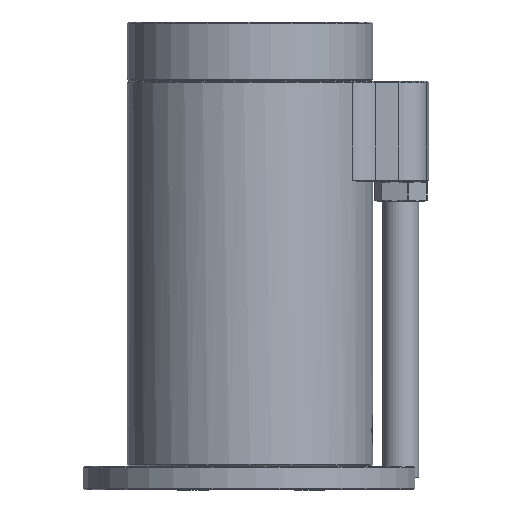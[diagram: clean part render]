
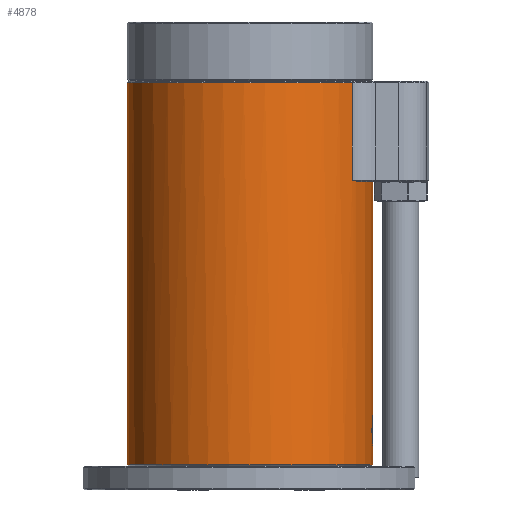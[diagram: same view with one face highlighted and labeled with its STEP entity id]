
A CAD part, left-side view. The second image highlights one B-rep face of the part: STEP entity #4878.
In plain terms, the highlighted cylindrical face has radius 44 mm (diameter 88 mm), a full revolution.
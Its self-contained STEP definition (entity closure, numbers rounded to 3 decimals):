
#30=B_SPLINE_CURVE_WITH_KNOTS('',3,(#7658,#7659,#7660,#7661),
 .UNSPECIFIED.,.F.,.F.,(4,4),(1.656,1.963),
 .UNSPECIFIED.);
#31=B_SPLINE_CURVE_WITH_KNOTS('',3,(#7674,#7675,#7676,#7677),
 .UNSPECIFIED.,.F.,.F.,(4,4),(1.963,2.269),
 .UNSPECIFIED.);
#33=B_SPLINE_CURVE_WITH_KNOTS('',3,(#7720,#7721,#7722,#7723,#7724,#7725,
#7726,#7727,#7728,#7729,#7730,#7731,#7732,#7733,#7734,#7735,#7736,#7737,
#7738,#7739,#7740,#7741,#7742,#7743,#7744,#7745,#7746,#7747,#7748,#7749,
#7750),.UNSPECIFIED.,.T.,.F.,(4,1,1,1,1,1,1,1,1,1,1,1,1,1,1,1,1,1,1,1,1,
1,1,1,1,1,1,1,4),(-5.808,-5.63,-5.57,
-5.452,-5.333,-5.274,-5.156,
-5.096,-4.948,-4.859,-4.77,
-4.741,-4.622,-4.519,-4.385,
-4.227,-4.168,-4.069,-3.99,
-3.911,-3.714,-3.595,-3.437,
-3.2,-3.141,-2.963,-2.844,
-2.726,-2.489),.UNSPECIFIED.);
#184=LINE('',#7599,#507);
#190=LINE('',#7622,#513);
#507=VECTOR('',#6101,10.);
#513=VECTOR('',#6125,10.);
#804=CYLINDRICAL_SURFACE('',#5346,44.);
#888=FACE_BOUND('',#1452,.T.);
#889=FACE_BOUND('',#1453,.T.);
#1109=FACE_OUTER_BOUND('',#1451,.T.);
#1451=EDGE_LOOP('',(#3466));
#1452=EDGE_LOOP('',(#3467,#3468,#3469,#3470,#3471,#3472));
#1453=EDGE_LOOP('',(#3473));
#1821=CIRCLE('',#5241,44.);
#1851=CIRCLE('',#5326,44.);
#1855=CIRCLE('',#5342,44.);
#2065=VERTEX_POINT('',#7368);
#2071=VERTEX_POINT('',#7380);
#2142=VERTEX_POINT('',#7595);
#2143=VERTEX_POINT('',#7597);
#2150=VERTEX_POINT('',#7619);
#2151=VERTEX_POINT('',#7621);
#2160=VERTEX_POINT('',#7679);
#2164=VERTEX_POINT('',#7719);
#2523=EDGE_CURVE('',#2065,#2071,#1821,.T.);
#2621=EDGE_CURVE('',#2143,#2142,#184,.T.);
#2632=EDGE_CURVE('',#2150,#2151,#190,.T.);
#2643=EDGE_CURVE('',#2151,#2143,#1851,.T.);
#2651=EDGE_CURVE('',#2065,#2150,#30,.T.);
#2658=EDGE_CURVE('',#2142,#2071,#31,.T.);
#2659=EDGE_CURVE('',#2160,#2160,#1855,.T.);
#2663=EDGE_CURVE('',#2164,#2164,#33,.T.);
#3466=ORIENTED_EDGE('',*,*,#2659,.F.);
#3467=ORIENTED_EDGE('',*,*,#2643,.F.);
#3468=ORIENTED_EDGE('',*,*,#2632,.F.);
#3469=ORIENTED_EDGE('',*,*,#2651,.F.);
#3470=ORIENTED_EDGE('',*,*,#2523,.T.);
#3471=ORIENTED_EDGE('',*,*,#2658,.F.);
#3472=ORIENTED_EDGE('',*,*,#2621,.F.);
#3473=ORIENTED_EDGE('',*,*,#2663,.F.);
#4878=ADVANCED_FACE('',(#1109,#888,#889),#804,.T.);
#5241=AXIS2_PLACEMENT_3D('',#7382,#5888,#5889);
#5326=AXIS2_PLACEMENT_3D('',#7642,#6148,#6149);
#5342=AXIS2_PLACEMENT_3D('',#7680,#6190,#6191);
#5346=AXIS2_PLACEMENT_3D('',#7718,#6198,#6199);
#5888=DIRECTION('center_axis',(0.,0.,
-1.));
#5889=DIRECTION('ref_axis',(1.,0.,0.));
#6101=DIRECTION('',(0.,0.,-1.));
#6125=DIRECTION('',(0.,0.,1.));
#6148=DIRECTION('center_axis',(0.,0.,
1.));
#6149=DIRECTION('ref_axis',(1.,0.,0.));
#6190=DIRECTION('center_axis',(0.,0.,
-1.));
#6191=DIRECTION('ref_axis',(-1.,0.,0.));
#6198=DIRECTION('center_axis',(0.,0.,
-1.));
#6199=DIRECTION('ref_axis',(1.,0.,0.));
#7368=CARTESIAN_POINT('',(21.99,-38.111,110.5));
#7380=CARTESIAN_POINT('',(-21.99,-38.111,110.5));
#7382=CARTESIAN_POINT('Origin',(0.,0.,
110.5));
#7595=CARTESIAN_POINT('',(-24.444,-36.585,111.));
#7597=CARTESIAN_POINT('',(-24.444,-36.585,146.));
#7599=CARTESIAN_POINT('',(-24.444,-36.585,59.5));
#7619=CARTESIAN_POINT('',(24.444,-36.585,111.));
#7621=CARTESIAN_POINT('',(24.444,-36.585,146.));
#7622=CARTESIAN_POINT('',(24.444,-36.585,59.5));
#7642=CARTESIAN_POINT('Origin',(0.,0.,
146.));
#7658=CARTESIAN_POINT('Ctrl Pts',(21.99,-38.111,110.5));
#7659=CARTESIAN_POINT('Ctrl Pts',(22.783,-37.653,110.809));
#7660=CARTESIAN_POINT('Ctrl Pts',(23.595,-37.153,111.));
#7661=CARTESIAN_POINT('Ctrl Pts',(24.444,-36.585,111.));
#7674=CARTESIAN_POINT('Ctrl Pts',(-24.444,-36.585,111.));
#7675=CARTESIAN_POINT('Ctrl Pts',(-23.595,-37.153,111.));
#7676=CARTESIAN_POINT('Ctrl Pts',(-22.783,-37.653,110.809));
#7677=CARTESIAN_POINT('Ctrl Pts',(-21.99,-38.111,110.5));
#7679=CARTESIAN_POINT('',(44.,0.,9.));
#7680=CARTESIAN_POINT('Origin',(0.,0.,
9.));
#7718=CARTESIAN_POINT('Origin',(0.,0.,
59.5));
#7719=CARTESIAN_POINT('',(0.,-44.,15.5));
#7720=CARTESIAN_POINT('Ctrl Pts',(0.,-44.,
15.499));
#7721=CARTESIAN_POINT('Ctrl Pts',(0.646,-44.,15.499));
#7722=CARTESIAN_POINT('Ctrl Pts',(1.558,-43.979,15.648));
#7723=CARTESIAN_POINT('Ctrl Pts',(2.827,-43.913,16.173));
#7724=CARTESIAN_POINT('Ctrl Pts',(3.795,-43.84,16.792));
#7725=CARTESIAN_POINT('Ctrl Pts',(4.552,-43.765,17.551));
#7726=CARTESIAN_POINT('Ctrl Pts',(5.21,-43.692,18.47));
#7727=CARTESIAN_POINT('Ctrl Pts',(5.611,-43.641,19.297));
#7728=CARTESIAN_POINT('Ctrl Pts',(5.955,-43.595,20.515));
#7729=CARTESIAN_POINT('Ctrl Pts',(6.044,-43.583,21.603));
#7730=CARTESIAN_POINT('Ctrl Pts',(5.879,-43.606,22.819));
#7731=CARTESIAN_POINT('Ctrl Pts',(5.635,-43.638,23.591));
#7732=CARTESIAN_POINT('Ctrl Pts',(5.263,-43.685,24.424));
#7733=CARTESIAN_POINT('Ctrl Pts',(4.736,-43.747,25.248));
#7734=CARTESIAN_POINT('Ctrl Pts',(3.836,-43.836,26.173));
#7735=CARTESIAN_POINT('Ctrl Pts',(2.563,-43.935,27.017));
#7736=CARTESIAN_POINT('Ctrl Pts',(1.242,-43.989,27.415));
#7737=CARTESIAN_POINT('Ctrl Pts',(0.07,-44.003,
27.521));
#7738=CARTESIAN_POINT('Ctrl Pts',(-0.8,-43.996,
27.472));
#7739=CARTESIAN_POINT('Ctrl Pts',(-1.766,-43.968,27.259));
#7740=CARTESIAN_POINT('Ctrl Pts',(-3.058,-43.902,26.746));
#7741=CARTESIAN_POINT('Ctrl Pts',(-4.248,-43.8,25.856));
#7742=CARTESIAN_POINT('Ctrl Pts',(-5.312,-43.681,24.435));
#7743=CARTESIAN_POINT('Ctrl Pts',(-6.057,-43.582,22.528));
#7744=CARTESIAN_POINT('Ctrl Pts',(-6.042,-43.583,20.843));
#7745=CARTESIAN_POINT('Ctrl Pts',(-5.553,-43.649,19.077));
#7746=CARTESIAN_POINT('Ctrl Pts',(-4.859,-43.735,17.857));
#7747=CARTESIAN_POINT('Ctrl Pts',(-3.793,-43.84,16.791));
#7748=CARTESIAN_POINT('Ctrl Pts',(-2.249,-43.957,15.8));
#7749=CARTESIAN_POINT('Ctrl Pts',(-0.862,-44.,
15.5));
#7750=CARTESIAN_POINT('Ctrl Pts',(0.,-44.,
15.499));
